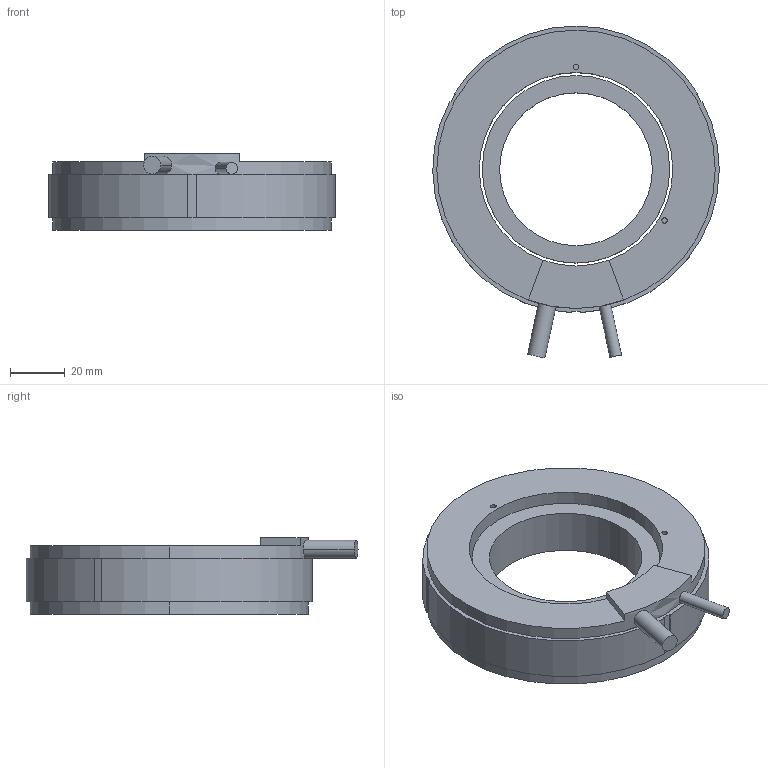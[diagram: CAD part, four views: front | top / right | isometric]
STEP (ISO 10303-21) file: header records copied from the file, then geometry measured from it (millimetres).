
FILE_DESCRIPTION (( 'STEP AP203' ), '1' );
FILE_NAME ('TM105-25 3D.STEP', '2024-01-12T02:41:30', ( '' ), ( '' ), 'SwSTEP 2.0', 'SolidWorks 2021', '' );
FILE_SCHEMA (( 'CONFIG_CONTROL_DESIGN' ));
Length unit declared in the file: millimetre
Products named in the file (1): TM105-25 3D
Bounding box: 104.99 x 121.65 x 28 mm (x, y, z)
Volume: 136262.6 mm3; surface area: 33125.4 mm2
Topology: 2 solids, 2 shells, 44 faces, 105 edges, 70 vertices
Faces by surface type: cylinder 22, plane 22
Entity records: 1492 total; most frequent: CARTESIAN_POINT 344, DIRECTION 235, ORIENTED_EDGE 210, EDGE_CURVE 105, AXIS2_PLACEMENT_3D 89, VERTEX_POINT 70, LINE 57, VECTOR 57
